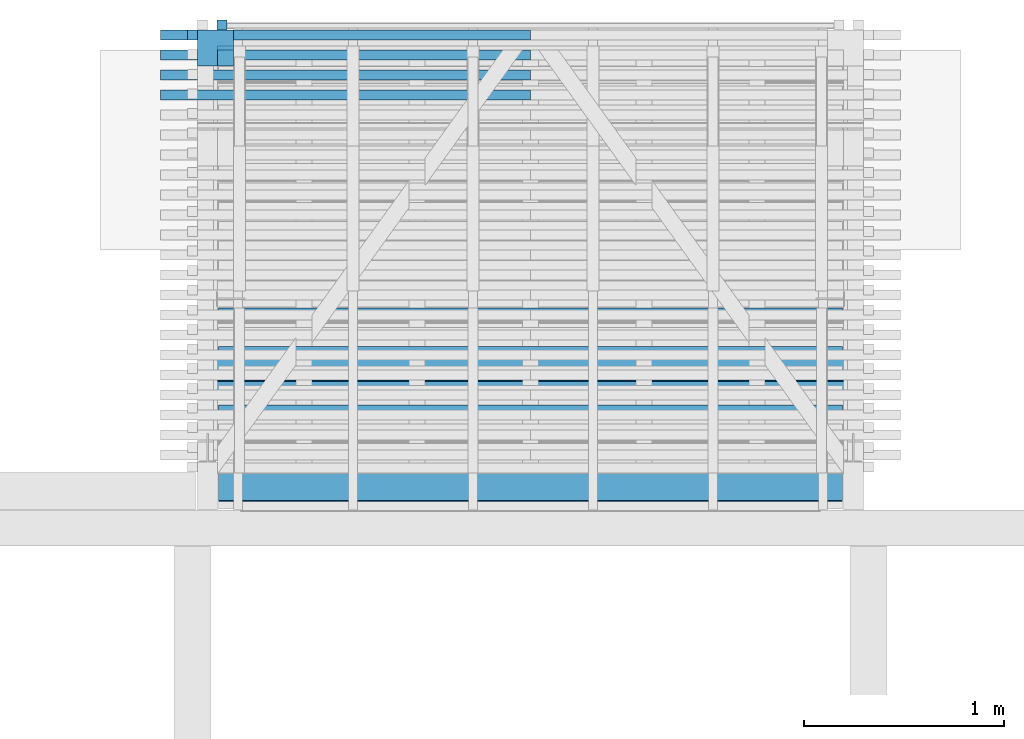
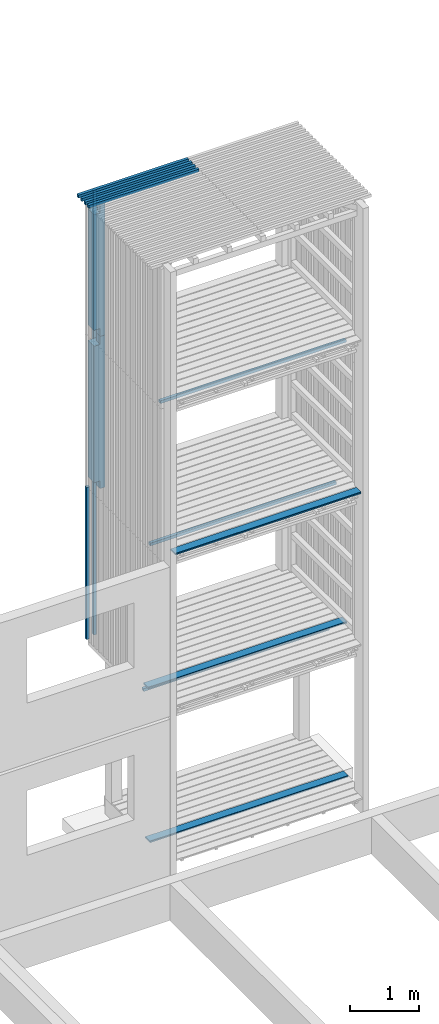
# One storey, part 65 of 182: 16 beams.
"""IFC2X3 building model written with IfcOpenShell, lengths in metres."""

from ifc_helpers import new_model, si_unit, frame, origin, place, context, project, spatial, faceted_brep, element, save


model = new_model("IFC2X3")

# Units and contexts
model_context = context("Model", 3, precision=1e-06, world=origin())
ifc_project = project(units=[si_unit("LENGTHUNIT", "METRE"), si_unit("PLANEANGLEUNIT", "RADIAN")], contexts=[model_context])

# Site, building, storey
site = spatial("IfcSite", under=ifc_project, CompositionType="ELEMENT")
building = spatial("IfcBuilding", under=site, CompositionType="ELEMENT")
storey = spatial("IfcBuildingStorey", under=building, Name="vs", CompositionType="ELEMENT", Elevation=-0.85)

# Beams
placement = place(None, origin())
beam_1_placement = place(placement, frame((23.168181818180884, 12.895077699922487, 5.274999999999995), z_axis=(0.0, -1.0, 0.0), x_axis=(0.0, 0.0, 1.0)))
element("IfcBeam", 1, at=beam_1_placement, inside=storey, Name="Bardage", context=model_context, shape_type="Brep", body=[
    faceted_brep([(1e-15, -0.025000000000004, 0.024999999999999), (1e-15, 0.024999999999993, 0.025000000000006), (1e-15, 0.025000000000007, -0.024999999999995), (1e-15, -0.025000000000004, -0.025000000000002), (2.699999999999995, -0.025000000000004, -0.025000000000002), (2.699999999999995, 0.025000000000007, -0.024999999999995), (2.699999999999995, 0.024999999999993, 0.025000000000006), (2.699999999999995, -0.025000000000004, 0.024999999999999), (1e-15, -0.025000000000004, 0.024999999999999), (1e-15, -0.025000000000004, -0.025000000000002), (2.699999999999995, -0.025000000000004, -0.025000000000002), (2.699999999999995, -0.025000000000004, 0.024999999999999), (2.699999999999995, -0.025000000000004, -0.025000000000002), (1e-15, -0.025000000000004, -0.025000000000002), (1e-15, 0.025000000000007, -0.024999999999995), (2.699999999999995, 0.025000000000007, -0.024999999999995), (2.699999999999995, 0.025000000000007, -0.024999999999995), (1e-15, 0.025000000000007, -0.024999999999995), (1e-15, 0.024999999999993, 0.025000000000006), (2.699999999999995, 0.024999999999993, 0.025000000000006), (2.699999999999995, 0.024999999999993, 0.025000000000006), (1e-15, 0.024999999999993, 0.025000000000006), (1e-15, -0.025000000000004, 0.024999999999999), (2.699999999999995, -0.025000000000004, 0.024999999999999)], [[[0, 1, 2, 3]], [[4, 5, 6, 7]], [[8, 9, 10, 11]], [[12, 13, 14, 15]], [[16, 17, 18, 19]], [[20, 21, 22, 23]]]),
])
beam_2_placement = place(placement, frame((26.269999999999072, 11.261327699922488, 5.167999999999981), z_axis=(0.0, 0.0, 1.0), x_axis=(-1.0, 0.0, 0.0)))
element("IfcBeam", 2, at=beam_2_placement, inside=storey, Name="Bardage", context=model_context, shape_type="Brep", body=[
    faceted_brep([(3.120000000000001, 0.024999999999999, -0.025), (3.120000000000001, -0.024999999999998, -0.025), (-3e-15, -0.025000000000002, -0.025), (-3e-15, 0.024999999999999, -0.025), (-3e-15, -0.025000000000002, -0.025), (3.120000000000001, -0.024999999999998, -0.025), (3.120000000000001, -0.024999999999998, 0.025000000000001), (-3e-15, -0.025000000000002, 0.025000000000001), (3.120000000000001, -0.024999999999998, -0.025), (3.120000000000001, 0.024999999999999, -0.025), (3.120000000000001, 0.024999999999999, 0.025000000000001), (3.120000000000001, -0.024999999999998, 0.025000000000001), (3.120000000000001, 0.024999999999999, 0.025000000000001), (3.120000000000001, 0.024999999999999, -0.025), (-3e-15, 0.024999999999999, -0.025), (-3e-15, 0.024999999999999, 0.025000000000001), (-3e-15, -0.025000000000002, 0.025000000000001), (3.120000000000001, -0.024999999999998, 0.025000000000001), (3.120000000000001, 0.024999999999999, 0.025000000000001), (-3e-15, 0.024999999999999, 0.025000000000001), (-3e-15, -0.025000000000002, -0.025), (-3e-15, -0.025000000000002, 0.025000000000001), (-3e-15, 0.024999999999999, 0.025000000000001), (-3e-15, 0.024999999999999, -0.025)], [[[0, 1, 2, 3]], [[4, 5, 6, 7]], [[8, 9, 10, 11]], [[12, 13, 14, 15]], [[16, 17, 18, 19]], [[20, 21, 22, 23]]]),
])
beam_3_placement = place(placement, frame((26.374999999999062, 11.134577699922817, 0.033500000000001), z_axis=(0.0, 0.0, 1.0), x_axis=(-1.0, -1e-15, 0.0)))
element("IfcBeam", 3, at=beam_3_placement, inside=storey, Name="Caillebotis", context=model_context, shape_type="Brep", body=[
    faceted_brep([(3.329999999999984, -0.067500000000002, 0.0135), (3.329999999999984, -0.072500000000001, 0.008500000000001), (3.329999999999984, -0.072500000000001, -0.013500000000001), (3.329999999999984, 0.072499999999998, -0.013500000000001), (3.329999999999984, 0.072499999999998, 0.0085), (3.329999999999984, 0.067499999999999, 0.0135), (0.0, 0.067499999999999, 0.0135), (0.0, 0.072500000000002, 0.0085), (0.0, 0.072500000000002, -0.013500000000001), (0.0, -0.072500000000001, -0.013500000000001), (0.0, -0.072500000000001, 0.008500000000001), (0.0, -0.067499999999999, 0.0135), (3.329999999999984, -0.072500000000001, -0.013500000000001), (3.329999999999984, -0.072500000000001, 0.008500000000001), (0.0, -0.072500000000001, 0.008500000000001), (0.0, -0.072500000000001, -0.013500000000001), (3.329999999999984, 0.072499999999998, -0.013500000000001), (3.329999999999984, -0.072500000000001, -0.013500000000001), (0.0, -0.072500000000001, -0.013500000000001), (0.0, 0.072500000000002, -0.013500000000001), (3.329999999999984, 0.072499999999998, 0.0085), (3.329999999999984, 0.072499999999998, -0.013500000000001), (0.0, 0.072500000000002, -0.013500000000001), (0.0, 0.072500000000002, 0.0085), (3.329999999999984, 0.067499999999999, 0.0135), (3.329999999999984, 0.072499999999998, 0.0085), (0.0, 0.072500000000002, 0.0085), (0.0, 0.067499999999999, 0.0135), (3.329999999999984, -0.067500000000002, 0.0135), (3.329999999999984, 0.067499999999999, 0.0135), (0.0, 0.067499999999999, 0.0135), (0.0, -0.067499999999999, 0.0135), (0.0, -0.072500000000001, 0.008500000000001), (3.329999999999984, -0.072500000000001, 0.008500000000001), (3.329999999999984, -0.067500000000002, 0.0135), (0.0, -0.067499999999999, 0.0135)], [[[0, 1, 2, 3, 4, 5]], [[6, 7, 8, 9, 10, 11]], [[12, 13, 14, 15]], [[16, 17, 18, 19]], [[20, 21, 22, 23]], [[24, 25, 26, 27]], [[28, 29, 30, 31]], [[32, 33, 34, 35]]]),
])
beam_4_placement = place(placement, frame((23.168181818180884, 12.895077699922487, 2.575000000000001), z_axis=(0.0, -1.0, 0.0), x_axis=(0.0, 0.0, 1.0)))
element("IfcBeam", 4, at=beam_4_placement, inside=storey, Name="Bardage", context=model_context, shape_type="Brep", body=[
    faceted_brep([(0.0, -0.025000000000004, 0.024999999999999), (0.0, 0.024999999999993, 0.025000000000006), (0.0, 0.025000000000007, -0.024999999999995), (0.0, -0.025000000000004, -0.025000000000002), (2.699961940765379, 0.025000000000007, -0.024999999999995), (2.699961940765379, 0.024999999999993, 0.025000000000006), (2.699961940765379, -0.025000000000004, 0.024999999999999), (2.699961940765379, -0.025000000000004, -0.025000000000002), (0.0, -0.025000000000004, -0.025000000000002), (0.0, 0.025000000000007, -0.024999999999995), (2.699961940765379, 0.025000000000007, -0.024999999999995), (2.699961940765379, -0.025000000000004, -0.025000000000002), (2.699961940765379, 0.025000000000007, -0.024999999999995), (0.0, 0.025000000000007, -0.024999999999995), (0.0, 0.024999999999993, 0.025000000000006), (2.699961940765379, 0.024999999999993, 0.025000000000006), (2.699961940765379, 0.024999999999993, 0.025000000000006), (0.0, 0.024999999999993, 0.025000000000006), (0.0, -0.025000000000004, 0.024999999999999), (2.699961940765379, -0.025000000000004, 0.024999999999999), (2.699961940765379, -0.025000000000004, 0.024999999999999), (0.0, -0.025000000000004, 0.024999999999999), (0.0, -0.025000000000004, -0.025000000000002), (2.699961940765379, -0.025000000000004, -0.025000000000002)], [[[0, 1, 2, 3]], [[4, 5, 6, 7]], [[8, 9, 10, 11]], [[12, 13, 14, 15]], [[16, 17, 18, 19]], [[20, 21, 22, 23]]]),
])
beam_5_placement = place(placement, frame((26.269999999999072, 11.455077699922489, 2.467999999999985), z_axis=(0.0, 0.0, 1.0), x_axis=(-1.0, -1e-15, 0.0)))
element("IfcBeam", 5, at=beam_5_placement, inside=storey, Name="Bardage", context=model_context, shape_type="Brep", body=[
    faceted_brep([(3.120000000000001, 0.025000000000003, -0.025), (3.120000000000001, -0.025000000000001, -0.025), (-3e-15, -0.024999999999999, -0.025), (-3e-15, 0.025000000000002, -0.025), (-3e-15, -0.024999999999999, -0.025), (3.120000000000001, -0.025000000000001, -0.025), (3.120000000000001, -0.025000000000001, 0.025), (-3e-15, -0.024999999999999, 0.025), (3.120000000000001, -0.025000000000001, -0.025), (3.120000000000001, 0.025000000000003, -0.025), (3.120000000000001, 0.025000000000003, 0.025), (3.120000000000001, -0.025000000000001, 0.025), (3.120000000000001, 0.025000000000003, 0.025), (3.120000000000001, 0.025000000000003, -0.025), (-3e-15, 0.025000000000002, -0.025), (-3e-15, 0.025000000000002, 0.025), (-3e-15, -0.024999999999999, 0.025), (3.120000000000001, -0.025000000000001, 0.025), (3.120000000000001, 0.025000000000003, 0.025), (-3e-15, 0.025000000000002, 0.025), (-3e-15, -0.024999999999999, -0.025), (-3e-15, -0.024999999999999, 0.025), (-3e-15, 0.025000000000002, 0.025), (-3e-15, 0.025000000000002, -0.025)], [[[0, 1, 2, 3]], [[4, 5, 6, 7]], [[8, 9, 10, 11]], [[12, 13, 14, 15]], [[16, 17, 18, 19]], [[20, 21, 22, 23]]]),
])
beam_6_placement = place(placement, frame((24.709999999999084, 12.645077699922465, 10.47999999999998), z_axis=(0.0, 0.0, 1.0), x_axis=(-1.0, 0.0, 0.0)))
element("IfcBeam", 6, at=beam_6_placement, inside=storey, Name="Bardage", context=model_context, shape_type="Brep", body=[
    faceted_brep([(1.850000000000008, -0.024999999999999, -0.024999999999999), (1.850000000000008, -0.024999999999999, 0.025000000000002), (-1e-15, -0.025000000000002, 0.025000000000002), (-1e-15, -0.025000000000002, -0.024999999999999), (1.850000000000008, -0.024999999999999, 0.025000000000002), (1.850000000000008, -0.024999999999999, -0.024999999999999), (1.850000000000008, 0.024999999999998, -0.024999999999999), (1.850000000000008, 0.024999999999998, 0.025000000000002), (1.850000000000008, 0.024999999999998, -0.024999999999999), (1.850000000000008, -0.024999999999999, -0.024999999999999), (-1e-15, -0.025000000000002, -0.024999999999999), (-1e-15, 0.024999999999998, -0.024999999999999), (1.850000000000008, 0.024999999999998, 0.025000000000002), (1.850000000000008, 0.024999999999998, -0.024999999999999), (-1e-15, 0.024999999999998, -0.024999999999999), (-1e-15, 0.024999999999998, 0.025000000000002), (-1e-15, -0.025000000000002, 0.025000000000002), (1.850000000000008, -0.024999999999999, 0.025000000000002), (1.850000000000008, 0.024999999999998, 0.025000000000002), (-1e-15, 0.024999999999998, 0.025000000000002), (-1e-15, -0.025000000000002, -0.024999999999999), (-1e-15, -0.025000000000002, 0.025000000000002), (-1e-15, 0.024999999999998, 0.025000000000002), (-1e-15, 0.024999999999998, -0.024999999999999)], [[[0, 1, 2, 3]], [[4, 5, 6, 7]], [[8, 9, 10, 11]], [[12, 13, 14, 15]], [[16, 17, 18, 19]], [[20, 21, 22, 23]]]),
])
beam_7_placement = place(placement, frame((26.374999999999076, 11.18457769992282, 2.733499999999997), z_axis=(0.0, 0.0, 1.0), x_axis=(-1.0, 0.0, 0.0)))
element("IfcBeam", 7, at=beam_7_placement, inside=storey, Name="Caillebotis", context=model_context, shape_type="Brep", body=[
    faceted_brep([(3.329999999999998, -0.072499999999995, -0.0135), (3.329999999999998, 0.072500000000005, -0.0135), (3.329999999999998, 0.072500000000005, 0.0085), (3.329999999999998, 0.067500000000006, 0.0135), (3.329999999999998, -0.067499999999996, 0.0135), (3.329999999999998, -0.072499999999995, 0.008500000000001), (0.0, -0.072499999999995, 0.008500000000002), (0.0, -0.067499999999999, 0.0135), (0.0, 0.067500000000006, 0.0135), (0.0, 0.072500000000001, 0.0085), (0.0, 0.072500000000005, -0.0135), (0.0, -0.072499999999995, -0.0135), (3.329999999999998, 0.072500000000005, 0.0085), (3.329999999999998, 0.072500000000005, -0.0135), (0.0, 0.072500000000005, -0.0135), (0.0, 0.072500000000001, 0.0085), (3.329999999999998, 0.067500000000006, 0.0135), (3.329999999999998, 0.072500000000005, 0.0085), (0.0, 0.072500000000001, 0.0085), (0.0, 0.067500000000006, 0.0135), (3.329999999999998, -0.067499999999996, 0.0135), (3.329999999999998, 0.067500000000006, 0.0135), (0.0, 0.067500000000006, 0.0135), (0.0, -0.067499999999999, 0.0135), (3.329999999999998, -0.072499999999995, 0.008500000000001), (3.329999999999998, -0.067499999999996, 0.0135), (0.0, -0.067499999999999, 0.0135), (0.0, -0.072499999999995, 0.008500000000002), (3.329999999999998, -0.072499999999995, -0.0135), (3.329999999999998, -0.072499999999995, 0.008500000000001), (0.0, -0.072499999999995, 0.008500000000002), (0.0, -0.072499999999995, -0.0135), (0.0, 0.072500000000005, -0.0135), (3.329999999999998, 0.072500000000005, -0.0135), (3.329999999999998, -0.072499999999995, -0.0135), (0.0, -0.072499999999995, -0.0135)], [[[0, 1, 2, 3, 4, 5]], [[6, 7, 8, 9, 10, 11]], [[12, 13, 14, 15]], [[16, 17, 18, 19]], [[20, 21, 22, 23]], [[24, 25, 26, 27]], [[28, 29, 30, 31]], [[32, 33, 34, 35]]]),
])
beam_8_placement = place(placement, frame((26.269999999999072, 10.584577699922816, 5.433499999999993), z_axis=(0.0, 0.0, 1.0), x_axis=(-1.0, 0.0, 0.0)))
element("IfcBeam", 8, at=beam_8_placement, inside=storey, Name="Caillebotis", context=model_context, shape_type="Brep", body=[
    faceted_brep([(-3e-15, -0.072500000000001, 0.008500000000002), (-3e-15, -0.067500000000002, 0.0135), (-3e-15, 0.067499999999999, 0.0135), (-3e-15, 0.072499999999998, 0.008500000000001), (-3e-15, 0.072499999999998, -0.0135), (-3e-15, -0.072500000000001, -0.0135), (-3e-15, 0.072499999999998, -0.0135), (-3e-15, 0.072499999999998, 0.008500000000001), (3.120000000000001, 0.072499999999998, 0.0085), (3.120000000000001, 0.072499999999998, -0.0135), (-3e-15, -0.072500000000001, -0.0135), (-3e-15, 0.072499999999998, -0.0135), (3.120000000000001, 0.072499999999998, -0.0135), (3.120000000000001, -0.072500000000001, -0.0135), (-3e-15, -0.072500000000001, 0.008500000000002), (-3e-15, -0.072500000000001, -0.0135), (3.120000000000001, -0.072500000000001, -0.0135), (3.120000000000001, -0.072500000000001, 0.008500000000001), (-3e-15, -0.067500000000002, 0.0135), (-3e-15, -0.072500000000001, 0.008500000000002), (3.120000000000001, -0.072500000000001, 0.008500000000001), (3.120000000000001, -0.067500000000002, 0.0135), (-3e-15, 0.067499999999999, 0.0135), (-3e-15, -0.067500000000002, 0.0135), (3.120000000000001, -0.067500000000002, 0.0135), (3.120000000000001, 0.067499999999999, 0.0135), (-3e-15, 0.072499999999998, 0.008500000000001), (-3e-15, 0.067499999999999, 0.0135), (3.120000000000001, 0.067499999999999, 0.0135), (3.120000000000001, 0.072499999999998, 0.0085), (3.120000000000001, -0.072500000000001, -0.0135), (3.120000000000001, 0.072499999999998, -0.0135), (3.120000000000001, 0.072499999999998, 0.0085), (3.120000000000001, 0.067499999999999, 0.0135), (3.120000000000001, -0.067500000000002, 0.0135), (3.120000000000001, -0.072500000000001, 0.008500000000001)], [[[0, 1, 2, 3, 4, 5]], [[6, 7, 8, 9]], [[10, 11, 12, 13]], [[14, 15, 16, 17]], [[18, 19, 20, 21]], [[22, 23, 24, 25]], [[26, 27, 28, 29]], [[30, 31, 32, 33, 34, 35]]]),
])
beam_9_placement = place(placement, frame((26.269999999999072, 10.970702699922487, 7.867999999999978), z_axis=(0.0, 0.0, 1.0), x_axis=(-1.0, 0.0, 0.0)))
element("IfcBeam", 9, at=beam_9_placement, inside=storey, Name="Bardage", context=model_context, shape_type="Brep", body=[
    faceted_brep([(3.120000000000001, 0.024999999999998, -0.025000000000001), (3.120000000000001, -0.025000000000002, -0.025000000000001), (-3e-15, -0.025000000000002, -0.025000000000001), (-3e-15, 0.024999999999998, -0.025000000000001), (-3e-15, -0.025000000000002, -0.025000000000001), (3.120000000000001, -0.025000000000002, -0.025000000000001), (3.120000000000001, -0.025000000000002, 0.024999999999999), (-3e-15, -0.025000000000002, 0.024999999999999), (3.120000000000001, -0.025000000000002, -0.025000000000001), (3.120000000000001, 0.024999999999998, -0.025000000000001), (3.120000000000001, 0.024999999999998, 0.024999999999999), (3.120000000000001, -0.025000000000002, 0.024999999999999), (3.120000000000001, 0.024999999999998, 0.024999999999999), (3.120000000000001, 0.024999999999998, -0.025000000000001), (-3e-15, 0.024999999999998, -0.025000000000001), (-3e-15, 0.024999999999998, 0.024999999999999), (-3e-15, -0.025000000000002, 0.024999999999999), (3.120000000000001, -0.025000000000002, 0.024999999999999), (3.120000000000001, 0.024999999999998, 0.024999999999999), (-3e-15, 0.024999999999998, 0.024999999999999), (-3e-15, -0.025000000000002, -0.025000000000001), (-3e-15, -0.025000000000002, 0.024999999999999), (-3e-15, 0.024999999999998, 0.024999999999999), (-3e-15, 0.024999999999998, -0.025000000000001)], [[[0, 1, 2, 3]], [[4, 5, 6, 7]], [[8, 9, 10, 11]], [[12, 13, 14, 15]], [[16, 17, 18, 19]], [[20, 21, 22, 23]]]),
])
beam_10_placement = place(placement, frame((23.168181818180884, 12.895077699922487, 7.974999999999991), z_axis=(0.0, -1.0, 0.0), x_axis=(0.0, 0.0, 1.0)))
element("IfcBeam", 10, at=beam_10_placement, inside=storey, Name="Bardage", context=model_context, shape_type="Brep", body=[
    faceted_brep([(2.479999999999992, -0.025000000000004, 0.024999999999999), (2.479999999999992, -0.025000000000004, -0.024999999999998), (2.479999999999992, 0.025000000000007, -0.024999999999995), (2.479999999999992, 0.024999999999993, 0.025000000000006), (0.0, 0.024999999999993, 0.025000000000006), (0.0, -0.025000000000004, 0.024999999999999), (2.479999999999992, -0.025000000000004, 0.024999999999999), (2.479999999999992, 0.024999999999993, 0.025000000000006), (0.0, -0.025000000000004, 0.024999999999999), (0.0, 0.024999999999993, 0.025000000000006), (0.0, 0.025000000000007, -0.024999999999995), (0.0, -0.025000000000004, -0.025000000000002), (0.0, 0.025000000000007, -0.024999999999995), (0.0, 0.024999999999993, 0.025000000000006), (2.479999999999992, 0.024999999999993, 0.025000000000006), (2.479999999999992, 0.025000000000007, -0.024999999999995), (0.0, -0.025000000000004, -0.025000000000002), (0.0, 0.025000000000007, -0.024999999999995), (2.479999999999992, 0.025000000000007, -0.024999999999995), (2.479999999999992, -0.025000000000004, -0.024999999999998), (2.479999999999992, -0.025000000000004, 0.024999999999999), (0.0, -0.025000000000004, 0.024999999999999), (0.0, -0.025000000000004, -0.025000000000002), (2.479999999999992, -0.025000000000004, -0.024999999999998)], [[[0, 1, 2, 3]], [[4, 5, 6, 7]], [[8, 9, 10, 11]], [[12, 13, 14, 15]], [[16, 17, 18, 19]], [[20, 21, 22, 23]]]),
])
beam_11_placement = place(placement, frame((23.13499999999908, 12.78007769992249, 7.979999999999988), z_axis=(0.0, -1.0, 0.0), x_axis=(0.0, 0.0, 1.0)))
element("IfcBeam", 11, at=beam_11_placement, inside=storey, Name="Poteau", context=model_context, shape_type="Brep", body=[
    faceted_brep([(2.194999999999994, -0.009999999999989, 0.089999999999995), (2.194999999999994, -0.009999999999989, 0.010000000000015), (2.194999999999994, -0.089999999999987, 0.010000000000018), (2.194999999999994, -0.089999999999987, -0.090000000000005), (2.194999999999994, 0.090000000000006, -0.090000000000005), (2.194999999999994, 0.090000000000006, 0.089999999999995), (0.139999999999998, 0.090000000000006, 0.089999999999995), (2.194999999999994, 0.090000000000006, 0.089999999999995), (2.194999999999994, 0.090000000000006, -0.090000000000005), (0.139999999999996, 0.090000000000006, -0.090000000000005), (0.059999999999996, -0.009999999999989, -0.009999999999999), (0.059999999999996, -0.089999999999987, -0.009999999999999), (-1e-15, -0.089999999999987, -0.009999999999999), (-1e-15, -0.009999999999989, -0.009999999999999), (-1e-15, -0.009999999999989, 0.089999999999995), (-1e-15, -0.009999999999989, -0.009999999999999), (-1e-15, -0.089999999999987, -0.009999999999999), (-1e-15, -0.089999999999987, 0.089999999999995), (0.139999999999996, -0.009999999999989, -0.090000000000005), (0.139999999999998, -0.009999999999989, 0.089999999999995), (0.139999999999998, 0.090000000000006, 0.089999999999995), (0.139999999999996, 0.090000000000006, -0.090000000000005), (0.059999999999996, -0.089999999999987, -0.009999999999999), (0.059999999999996, -0.009999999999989, -0.009999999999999), (0.059999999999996, -0.009999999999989, -0.090000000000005), (0.059999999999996, -0.089999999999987, -0.090000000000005), (-1e-15, -0.009999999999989, -0.009999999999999), (-1e-15, -0.009999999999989, 0.089999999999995), (0.139999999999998, -0.009999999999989, 0.089999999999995), (0.139999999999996, -0.009999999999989, -0.090000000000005), (0.059999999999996, -0.009999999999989, -0.090000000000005), (0.059999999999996, -0.009999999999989, -0.009999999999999), (0.059999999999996, -0.089999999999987, -0.090000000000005), (0.059999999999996, -0.009999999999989, -0.090000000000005), (0.139999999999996, -0.009999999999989, -0.090000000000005), (0.139999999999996, 0.090000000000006, -0.090000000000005), (2.194999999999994, 0.090000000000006, -0.090000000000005), (2.194999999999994, -0.089999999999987, -0.090000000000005), (2.474999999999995, -0.089999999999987, 0.089999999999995), (-1e-15, -0.089999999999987, 0.089999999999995), (-1e-15, -0.089999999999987, -0.009999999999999), (0.059999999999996, -0.089999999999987, -0.009999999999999), (0.059999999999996, -0.089999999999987, -0.090000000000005), (2.194999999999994, -0.089999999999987, -0.090000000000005), (2.194999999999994, -0.089999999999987, 0.010000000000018), (2.474999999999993, -0.089999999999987, 0.010000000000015), (2.474999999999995, -0.089999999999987, 0.089999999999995), (2.474999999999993, -0.089999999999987, 0.010000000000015), (2.474999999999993, -0.009999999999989, 0.010000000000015), (2.474999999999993, -0.009999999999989, 0.089999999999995), (2.194999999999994, -0.089999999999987, 0.010000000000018), (2.194999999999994, -0.009999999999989, 0.010000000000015), (2.474999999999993, -0.009999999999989, 0.010000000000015), (2.474999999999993, -0.089999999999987, 0.010000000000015), (2.474999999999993, -0.009999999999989, 0.089999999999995), (2.474999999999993, -0.009999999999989, 0.010000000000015), (2.194999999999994, -0.009999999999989, 0.010000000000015), (2.194999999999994, -0.009999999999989, 0.089999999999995), (2.474999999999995, -0.089999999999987, 0.089999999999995), (2.474999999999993, -0.009999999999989, 0.089999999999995), (2.194999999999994, -0.009999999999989, 0.089999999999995), (2.194999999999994, 0.090000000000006, 0.089999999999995), (0.139999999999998, 0.090000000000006, 0.089999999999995), (0.139999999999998, -0.009999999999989, 0.089999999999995), (-1e-15, -0.009999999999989, 0.089999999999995), (-1e-15, -0.089999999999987, 0.089999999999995)], [[[0, 1, 2, 3, 4, 5]], [[6, 7, 8, 9]], [[10, 11, 12, 13]], [[14, 15, 16, 17]], [[18, 19, 20, 21]], [[22, 23, 24, 25]], [[26, 27, 28, 29, 30, 31]], [[32, 33, 34, 35, 36, 37]], [[38, 39, 40, 41, 42, 43, 44, 45]], [[46, 47, 48, 49]], [[50, 51, 52, 53]], [[54, 55, 56, 57]], [[58, 59, 60, 61, 62, 63, 64, 65]]]),
])
beam_12_placement = place(placement, frame((24.709999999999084, 12.745077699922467, 10.47999999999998), z_axis=(0.0, 0.0, 1.0), x_axis=(-1.0, 0.0, 0.0)))
element("IfcBeam", 12, at=beam_12_placement, inside=storey, Name="Bardage", context=model_context, shape_type="Brep", body=[
    faceted_brep([(1.850000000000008, -0.024999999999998, -0.024999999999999), (1.850000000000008, -0.024999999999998, 0.025000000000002), (-1e-15, -0.024999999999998, 0.025000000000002), (-1e-15, -0.024999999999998, -0.024999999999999), (1.850000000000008, -0.024999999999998, 0.025000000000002), (1.850000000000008, -0.024999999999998, -0.024999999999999), (1.850000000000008, 0.024999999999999, -0.024999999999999), (1.850000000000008, 0.024999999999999, 0.025000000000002), (1.850000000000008, 0.024999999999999, -0.024999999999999), (1.850000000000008, -0.024999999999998, -0.024999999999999), (-1e-15, -0.024999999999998, -0.024999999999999), (-1e-15, 0.024999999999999, -0.024999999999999), (1.850000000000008, 0.024999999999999, 0.025000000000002), (1.850000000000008, 0.024999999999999, -0.024999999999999), (-1e-15, 0.024999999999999, -0.024999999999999), (-1e-15, 0.024999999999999, 0.025000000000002), (-1e-15, -0.024999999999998, 0.025000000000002), (1.850000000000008, -0.024999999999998, 0.025000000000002), (1.850000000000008, 0.024999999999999, 0.025000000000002), (-1e-15, 0.024999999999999, 0.025000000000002), (-1e-15, -0.024999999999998, -0.024999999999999), (-1e-15, -0.024999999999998, 0.025000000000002), (-1e-15, 0.024999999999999, 0.025000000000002), (-1e-15, 0.024999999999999, -0.024999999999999)], [[[0, 1, 2, 3]], [[4, 5, 6, 7]], [[8, 9, 10, 11]], [[12, 13, 14, 15]], [[16, 17, 18, 19]], [[20, 21, 22, 23]]]),
])
beam_13_placement = place(placement, frame((24.709999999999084, 12.545077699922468, 10.47999999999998), z_axis=(0.0, 0.0, 1.0), x_axis=(-1.0, -2e-15, 0.0)))
element("IfcBeam", 13, at=beam_13_placement, inside=storey, Name="Bardage", context=model_context, shape_type="Brep", body=[
    faceted_brep([(1.850000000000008, -0.025000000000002, -0.024999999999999), (1.850000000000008, -0.025000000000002, 0.025000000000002), (-1e-15, -0.025000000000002, 0.025000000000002), (-1e-15, -0.025000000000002, -0.024999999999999), (1.850000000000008, -0.025000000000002, 0.025000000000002), (1.850000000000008, -0.025000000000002, -0.024999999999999), (1.850000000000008, 0.024999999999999, -0.024999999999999), (1.850000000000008, 0.024999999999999, 0.025000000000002), (1.850000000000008, 0.024999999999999, -0.024999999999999), (1.850000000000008, -0.025000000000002, -0.024999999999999), (-1e-15, -0.025000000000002, -0.024999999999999), (0.0, 0.025000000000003, -0.024999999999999), (1.850000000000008, 0.024999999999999, 0.025000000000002), (1.850000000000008, 0.024999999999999, -0.024999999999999), (0.0, 0.025000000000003, -0.024999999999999), (0.0, 0.025000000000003, 0.025000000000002), (-1e-15, -0.025000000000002, 0.025000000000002), (1.850000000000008, -0.025000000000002, 0.025000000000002), (1.850000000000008, 0.024999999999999, 0.025000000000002), (0.0, 0.025000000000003, 0.025000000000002), (-1e-15, -0.025000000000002, -0.024999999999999), (-1e-15, -0.025000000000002, 0.025000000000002), (0.0, 0.025000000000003, 0.025000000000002), (0.0, 0.025000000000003, -0.024999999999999)], [[[0, 1, 2, 3]], [[4, 5, 6, 7]], [[8, 9, 10, 11]], [[12, 13, 14, 15]], [[16, 17, 18, 19]], [[20, 21, 22, 23]]]),
])
beam_14_placement = place(placement, frame((23.134999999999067, 12.78007769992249, 5.279999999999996), z_axis=(0.0, -1.0, 0.0), x_axis=(0.0, 0.0, 1.0)))
element("IfcBeam", 14, at=beam_14_placement, inside=storey, Name="Poteau", context=model_context, shape_type="Brep", body=[
    faceted_brep([(0.059999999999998, -0.010000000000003, -0.010000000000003), (0.059999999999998, -0.090000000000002, -0.009999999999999), (-1e-15, -0.090000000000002, -0.010000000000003), (-1e-15, -0.010000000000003, -0.010000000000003), (-1e-15, -0.010000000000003, 0.089999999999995), (-1e-15, -0.010000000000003, -0.010000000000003), (-1e-15, -0.090000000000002, -0.010000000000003), (-1e-15, -0.090000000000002, 0.089999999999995), (0.139999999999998, -0.010000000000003, -0.090000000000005), (0.139999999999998, -0.010000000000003, 0.089999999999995), (0.139999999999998, 0.089999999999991, 0.089999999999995), (0.139999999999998, 0.089999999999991, -0.090000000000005), (0.059999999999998, -0.090000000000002, -0.009999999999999), (0.059999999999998, -0.010000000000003, -0.010000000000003), (0.059999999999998, -0.010000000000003, -0.090000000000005), (0.059999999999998, -0.090000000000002, -0.090000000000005), (-1e-15, -0.010000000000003, -0.010000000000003), (-1e-15, -0.010000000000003, 0.089999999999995), (0.139999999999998, -0.010000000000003, 0.089999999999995), (0.139999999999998, -0.010000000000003, -0.090000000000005), (0.059999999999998, -0.010000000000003, -0.090000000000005), (0.059999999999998, -0.010000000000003, -0.010000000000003), (0.059999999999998, -0.090000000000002, -0.090000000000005), (0.059999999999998, -0.010000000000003, -0.090000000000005), (0.139999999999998, -0.010000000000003, -0.090000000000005), (0.139999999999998, 0.089999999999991, -0.090000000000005), (2.559999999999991, 0.089999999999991, -0.090000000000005), (2.559999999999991, -0.090000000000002, -0.090000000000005), (2.699999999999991, -0.090000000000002, -0.009999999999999), (2.699999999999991, -0.090000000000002, 0.089999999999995), (-1e-15, -0.090000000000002, 0.089999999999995), (-1e-15, -0.090000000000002, -0.010000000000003), (0.059999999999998, -0.090000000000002, -0.009999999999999), (0.059999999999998, -0.090000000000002, -0.090000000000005), (2.559999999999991, -0.090000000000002, -0.090000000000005), (2.559999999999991, -0.090000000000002, -0.009999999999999), (2.559999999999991, 0.089999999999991, -0.090000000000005), (0.139999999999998, 0.089999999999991, -0.090000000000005), (0.139999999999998, 0.089999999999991, 0.089999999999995), (2.559999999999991, 0.089999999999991, 0.089999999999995), (2.699999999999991, -0.010000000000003, 0.089999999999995), (2.559999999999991, -0.010000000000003, 0.089999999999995), (2.559999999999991, 0.089999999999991, 0.089999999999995), (0.139999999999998, 0.089999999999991, 0.089999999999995), (0.139999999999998, -0.010000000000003, 0.089999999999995), (-1e-15, -0.010000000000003, 0.089999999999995), (-1e-15, -0.090000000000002, 0.089999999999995), (2.699999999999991, -0.090000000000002, 0.089999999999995), (2.699999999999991, -0.090000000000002, -0.009999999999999), (2.559999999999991, -0.090000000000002, -0.009999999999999), (2.559999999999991, -0.010000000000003, -0.010000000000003), (2.699999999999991, -0.010000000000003, -0.009999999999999), (2.699999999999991, -0.010000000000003, 0.089999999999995), (2.699999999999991, -0.090000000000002, 0.089999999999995), (2.699999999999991, -0.090000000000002, -0.009999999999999), (2.699999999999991, -0.010000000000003, -0.009999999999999), (2.559999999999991, -0.010000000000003, 0.089999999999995), (2.699999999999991, -0.010000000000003, 0.089999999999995), (2.699999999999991, -0.010000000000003, -0.009999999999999), (2.559999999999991, -0.010000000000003, -0.010000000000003), (2.559999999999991, 0.089999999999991, -0.090000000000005), (2.559999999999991, 0.089999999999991, 0.089999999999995), (2.559999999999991, -0.010000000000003, 0.089999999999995), (2.559999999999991, -0.010000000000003, -0.010000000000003), (2.559999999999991, -0.090000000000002, -0.009999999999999), (2.559999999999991, -0.090000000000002, -0.090000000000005)], [[[0, 1, 2, 3]], [[4, 5, 6, 7]], [[8, 9, 10, 11]], [[12, 13, 14, 15]], [[16, 17, 18, 19, 20, 21]], [[22, 23, 24, 25, 26, 27]], [[28, 29, 30, 31, 32, 33, 34, 35]], [[36, 37, 38, 39]], [[40, 41, 42, 43, 44, 45, 46, 47]], [[48, 49, 50, 51]], [[52, 53, 54, 55]], [[56, 57, 58, 59]], [[60, 61, 62, 63, 64, 65]]]),
])
beam_15_placement = place(placement, frame((24.709999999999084, 12.845077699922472, 10.47999999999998), z_axis=(0.0, 0.0, 1.0), x_axis=(-1.0, 0.0, 0.0)))
element("IfcBeam", 15, at=beam_15_placement, inside=storey, Name="Bardage", context=model_context, shape_type="Brep", body=[
    faceted_brep([(1.850000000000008, -0.024999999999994, -0.024999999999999), (1.850000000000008, -0.024999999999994, 0.025000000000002), (-1e-15, -0.024999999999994, 0.025000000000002), (-1e-15, -0.024999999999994, -0.024999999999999), (1.850000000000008, -0.024999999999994, 0.025000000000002), (1.850000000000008, -0.024999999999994, -0.024999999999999), (1.850000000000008, 0.025000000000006, -0.024999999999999), (1.850000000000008, 0.025000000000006, 0.025000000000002), (1.850000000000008, 0.025000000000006, -0.024999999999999), (1.850000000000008, -0.024999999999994, -0.024999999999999), (-1e-15, -0.024999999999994, -0.024999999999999), (-1e-15, 0.025000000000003, -0.024999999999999), (1.850000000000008, 0.025000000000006, 0.025000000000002), (1.850000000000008, 0.025000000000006, -0.024999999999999), (-1e-15, 0.025000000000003, -0.024999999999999), (-1e-15, 0.025000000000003, 0.025000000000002), (-1e-15, -0.024999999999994, 0.025000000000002), (1.850000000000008, -0.024999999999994, 0.025000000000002), (1.850000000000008, 0.025000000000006, 0.025000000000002), (-1e-15, 0.025000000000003, 0.025000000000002), (-1e-15, -0.024999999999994, -0.024999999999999), (-1e-15, -0.024999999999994, 0.025000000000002), (-1e-15, 0.025000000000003, 0.025000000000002), (-1e-15, 0.025000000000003, -0.024999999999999)], [[[0, 1, 2, 3]], [[4, 5, 6, 7]], [[8, 9, 10, 11]], [[12, 13, 14, 15]], [[16, 17, 18, 19]], [[20, 21, 22, 23]]]),
])
beam_16_placement = place(placement, frame((23.019999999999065, 12.845077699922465, 2.575000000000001), z_axis=(1.0, 0.0, 0.0), x_axis=(0.0, 3e-15, 1.0)))
element("IfcBeam", 16, at=beam_16_placement, inside=storey, Name="Bardage", context=model_context, shape_type="Brep", body=[
    faceted_brep([(2.699961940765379, -0.024999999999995, 0.025000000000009), (2.699961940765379, -0.024999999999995, -0.025000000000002), (2.699961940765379, 0.02500000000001, -0.025000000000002), (2.699961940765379, 0.02500000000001, 0.025000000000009), (0.0, -0.025000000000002, 0.025000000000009), (2.699961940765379, -0.024999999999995, 0.025000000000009), (2.699961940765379, 0.02500000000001, 0.025000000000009), (0.0, 0.025000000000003, 0.025000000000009), (0.0, -0.025000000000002, 0.025000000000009), (0.0, 0.025000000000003, 0.025000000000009), (0.0, 0.025000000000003, -0.025000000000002), (0.0, -0.025000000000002, -0.025000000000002), (0.0, -0.025000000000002, 0.025000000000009), (0.0, -0.025000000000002, -0.025000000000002), (2.699961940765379, -0.024999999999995, -0.025000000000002), (2.699961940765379, -0.024999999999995, 0.025000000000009), (0.0, -0.025000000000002, -0.025000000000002), (0.0, 0.025000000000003, -0.025000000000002), (2.699961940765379, 0.02500000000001, -0.025000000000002), (2.699961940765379, -0.024999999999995, -0.025000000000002), (0.0, 0.025000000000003, -0.025000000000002), (0.0, 0.025000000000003, 0.025000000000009), (2.699961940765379, 0.02500000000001, 0.025000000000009), (2.699961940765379, 0.02500000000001, -0.025000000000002)], [[[0, 1, 2, 3]], [[4, 5, 6, 7]], [[8, 9, 10, 11]], [[12, 13, 14, 15]], [[16, 17, 18, 19]], [[20, 21, 22, 23]]]),
])

save(model, "model.ifc")
